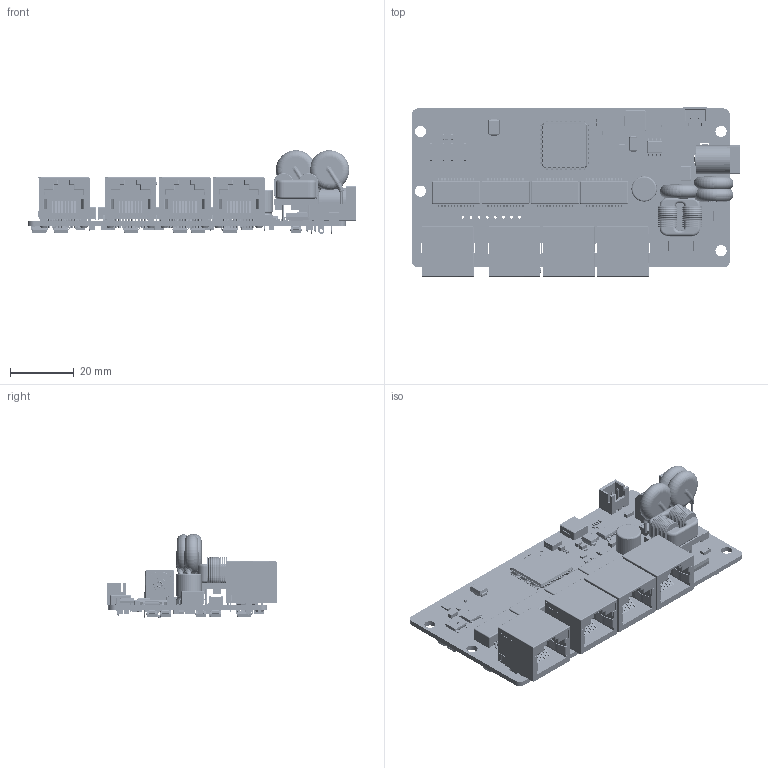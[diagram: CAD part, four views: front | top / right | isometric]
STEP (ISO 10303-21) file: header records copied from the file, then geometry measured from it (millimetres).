
FILE_DESCRIPTION(('Designed by EasyEDA Pro'),'2;1');
FILE_NAME('Open CASCADE Shape Model','2025-05-19T15:29:31',('Author'),( 'Open CASCADE'),'Open CASCADE STEP processor 7.8','Open CASCADE 7.8' ,'Unknown');
FILE_SCHEMA(('AUTOMOTIVE_DESIGN { 1 0 10303 214 1 1 1 1 }'));
Length unit declared in the file: millimetre
Products named in the file (66): EasyEDA PCB Model~kBI0; Board~kBI0; TopCopper~kBI0; BottomCopper~kBI0; TopFpcStiffener~kBI0; BottomFpcStiffener~kBI0; C32~1206~C1206_L3.2-W1.6-H1.3~kBI0; 1206~C1206_L3.2-W1.6-H1.3~kBI0; C33~1206~C1206_L3.2-W1.6-H1.3~kBI0; U4~SOP-8L-6502-1902~SOP-8_L5.0-W3.8-H1.5-LS6.0-P1.00~kBI0; SOP-8L-6502-1902~SOP-8_L5.0-W3.8-H1.5-LS6.0-P1.00~kBI0; C87~0805-1907~C0805_L2.0-W1.3-H1.3~kBI0; 0805-1907~C0805_L2.0-W1.3-H1.3~kBI0; R1~R0402_LY~R0402_L1.0-W0.5-H0.4~kBI0; R0402_LY~R0402_L1.0-W0.5-H0.4~kBI0; R19~0805-1907~R0805_L2.0-W1.3-H0.6 COPY~kBI0; 0805-1907~R0805_L2.0-W1.3-H0.6 COPY~kBI0; R6~1206~R1206_L3.2-W1.6-H0.6~kBI0; 1206~R1206_L3.2-W1.6-H0.6~kBI0; R34~1210~R1210_L3.2-W2.6-H0.7~kBI0; 1210~R1210_L3.2-W2.6-H0.7~kBI0; R11~R0603_LY~R0603_L1.6-W0.8-H0.5~kBI0; R0603_LY~R0603_L1.6-W0.8-H0.5~kBI0; C13~E100B-25AA~CAP-SMD_BD8.1-L8.3-W8.3-LS9.3-FD~kBI0; E100B-25AA~CAP-SMD_BD8.1-L8.3-W8.3-LS9.3-FD~kBI0; C10~C0402_LY~C0402~kBI0; C0402_LY~C0402~kBI0; Y~Y-3225-210511~CRYSTAL-SMD_4P-L3.2-W2.5-BL~kBI0; Y-3225-210511~CRYSTAL-SMD_4P-L3.2-W2.5-BL~kBI0; Q2~MLL41A~DIO-DT_L4.5-W3.2-H2.7~kBI0; MLL41A~DIO-DT_L4.5-W3.2-H2.7~kBI0; T2~SOT236-2110~SOT-23-6_L2.9-W1.6-P0.95-LS2.8-BL-1~kBI0; SOT236-2110~SOT-23-6_L2.9-W1.6-P0.95-LS2.8-BL-1~kBI0; JP~J2-POW~CONN-TH_2P-P2.50_XH-2A_3045048~kBI0; J2-POW~CONN-TH_2P-P2.50_XH-2A_3045048~kBI0; POW~LED-A~LED0603-RD_RED~kBI0; LED-A~LED0603-RD_RED~kBI0; Q1~10DXXK~RES-TH_L12.5-W4.7-H16.0-P7.50-D0.8-S1.60~kBI0; 10DXXK~RES-TH_L12.5-W4.7-H16.0-P7.50-D0.8-S1.60~kBI0; L~L0603~IND-SMD_L6.6-W7.1-H3.0~kBI0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
Assembly tree (179 placements, depth 3):
  EasyEDA PCB Model~kBI0
    Board~kBI0
    TopCopper~kBI0
    BottomCopper~kBI0
    TopFpcStiffener~kBI0
    BottomFpcStiffener~kBI0
    C32~1206~C1206_L3.2-W1.6-H1.3~kBI0  x15
      1206~C1206_L3.2-W1.6-H1.3~kBI0
    C33~1206~C1206_L3.2-W1.6-H1.3~kBI0  x2
      1206~C1206_L3.2-W1.6-H1.3~kBI0
    U4~SOP-8L-6502-1902~SOP-8_L5.0-W3.8-H1.5-LS6.0-P1.00~kBI0
      SOP-8L-6502-1902~SOP-8_L5.0-W3.8-H1.5-LS6.0-P1.00~kBI0
    C87~0805-1907~C0805_L2.0-W1.3-H1.3~kBI0  x5
      0805-1907~C0805_L2.0-W1.3-H1.3~kBI0
    R1~R0402_LY~R0402_L1.0-W0.5-H0.4~kBI0  x30
      R0402_LY~R0402_L1.0-W0.5-H0.4~kBI0
    R19~0805-1907~R0805_L2.0-W1.3-H0.6 COPY~kBI0  x5
      0805-1907~R0805_L2.0-W1.3-H0.6 COPY~kBI0
    R6~1206~R1206_L3.2-W1.6-H0.6~kBI0
      1206~R1206_L3.2-W1.6-H0.6~kBI0
    R34~1210~R1210_L3.2-W2.6-H0.7~kBI0
      1210~R1210_L3.2-W2.6-H0.7~kBI0
    R11~R0603_LY~R0603_L1.6-W0.8-H0.5~kBI0  x4
      R0603_LY~R0603_L1.6-W0.8-H0.5~kBI0
    C13~E100B-25AA~CAP-SMD_BD8.1-L8.3-W8.3-LS9.3-FD~kBI0
      E100B-25AA~CAP-SMD_BD8.1-L8.3-W8.3-LS9.3-FD~kBI0
    C10~C0402_LY~C0402~kBI0  x34
      C0402_LY~C0402~kBI0
    Y~Y-3225-210511~CRYSTAL-SMD_4P-L3.2-W2.5-BL~kBI0
      Y-3225-210511~CRYSTAL-SMD_4P-L3.2-W2.5-BL~kBI0
    Q2~MLL41A~DIO-DT_L4.5-W3.2-H2.7~kBI0  x2
      MLL41A~DIO-DT_L4.5-W3.2-H2.7~kBI0
    T2~SOT236-2110~SOT-23-6_L2.9-W1.6-P0.95-LS2.8-BL-1~kBI0  x8
      SOT236-2110~SOT-23-6_L2.9-W1.6-P0.95-LS2.8-BL-1~kBI0
    JP~J2-POW~CONN-TH_2P-P2.50_XH-2A_3045048~kBI0
      J2-POW~CONN-TH_2P-P2.50_XH-2A_3045048~kBI0
    POW~LED-A~LED0603-RD_RED~kBI0
      LED-A~LED0603-RD_RED~kBI0
    Q1~10DXXK~RES-TH_L12.5-W4.7-H16.0-P7.50-D0.8-S1.60~kBI0  x3
      10DXXK~RES-TH_L12.5-W4.7-H16.0-P7.50-D0.8-S1.60~kBI0
    L~L0603~IND-SMD_L6.6-W7.1-H3.0~kBI0
      L0603~IND-SMD_L6.6-W7.1-H3.0~kBI0
    D1~SMB-MINI-200820~SMB_L4.6-W3.5-LS5.3-BI~kBI0  x9
      SMB-MINI-200820~SMB_L4.6-W3.5-LS5.3-BI~kBI0
    D8~SMB-PN-210107~SMB_L4.6-W3.5-LS5.3-BI~kBI0  x2
      SMB-PN-210107~SMB_L4.6-W3.5-LS5.3-BI~kBI0
    D5~SMC-2011~SMC_L6.9-W5.9-LS8.0-BI~kBI0
      SMC-2011~SMC_L6.9-W5.9-LS8.0-BI~kBI0
    DS1~ABS210~ABF_L5.1-W4.4-H1.1-LS6.2-P4.00~kBI0  x2
      ABS210~ABF_L5.1-W4.4-H1.1-LS6.2-P4.00~kBI0
    DC~POWERJACKHHH~DC-IN-TH_L14.4-W9.0-H11.0~kBI0
      POWERJACKHHH~DC-IN-TH_L14.4-W9.0-H11.0~kBI0
    RB2~RJ45-D~RJ45-TH_R-RJ45R08P-CT00~kBI0  x4
      RJ45-D~RJ45-TH_R-RJ45R08P-CT00~kBI0
    L1~L0402~IND-SMD_L4.2-W4.4-H2.0~kBI0
      L0402~IND-SMD_L4.2-W4.4-H2.0~kBI0
    D21~SMA-S-2204~SMA_L4.3-W2.6-LS5.0-FD~kBI0
      SMA-S-2204~SMA_L4.3-W2.6-LS5.0-FD~kBI0
    MA0~NS892407B~SMD-24_L15.1-W7.1-H4.5-P1.00-LS10.0-BL~kBI0  x4
      NS892407B~SMD-24_L15.1-W7.1-H4.5-P1.00-LS10.0-BL~kBI0
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Bounding box: 103.29 x 53.22 x 26.25 mm (x, y, z)
Volume: 25274 mm3; surface area: 39652.5 mm2
Topology: 627 solids, 627 shells, 50290 faces, 135020 edges, 88527 vertices
Faces by surface type: plane 29566, bspline 14960, cylinder 4816, sphere 595, torus 317, cone 36
Entity records: 522798 total; most frequent: CARTESIAN_POINT 127843, ORIENTED_EDGE 67468, DIRECTION 50237, EDGE_CURVE 33734, LINE 23009, VECTOR 23009, VERTEX_POINT 22048, AXIS2_PLACEMENT_3D 13614
